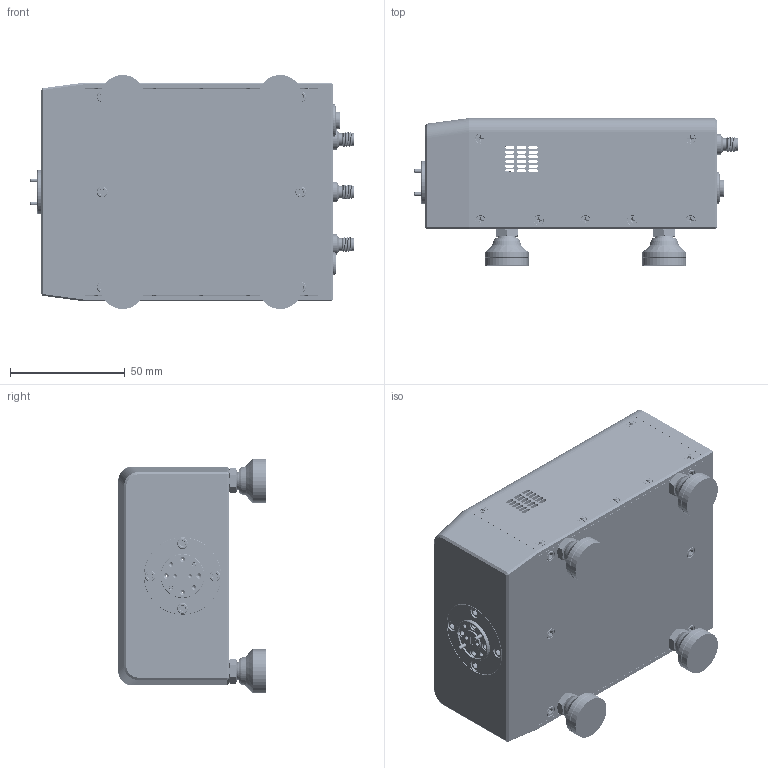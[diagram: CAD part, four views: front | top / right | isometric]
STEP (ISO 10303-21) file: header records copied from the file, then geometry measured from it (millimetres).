
FILE_DESCRIPTION (( 'STEP AP214' ), '1' );
FILE_NAME ('TO-TV-A.STEP', '2024-11-21T17:41:39', ( '' ), ( '' ), 'SwSTEP 2.0', 'SolidWorks 2021', '' );
FILE_SCHEMA (( 'AUTOMOTIVE_DESIGN' ));
Length unit declared in the file: inch
Products named in the file (1): TO-TV-A
Bounding box: 140.66 x 64.14 x 101.85 mm (x, y, z)
Volume: 190921.2 mm3; surface area: 127103 mm2
Topology: 74 solids, 74 shells, 4220 faces, 11161 edges, 7098 vertices
Faces by surface type: cylinder 2011, plane 993, cone 783, bspline 363, sphere 62, torus 8
Entity records: 254680 total; most frequent: CARTESIAN_POINT 160453, ORIENTED_EDGE 21980, DIRECTION 16799, EDGE_CURVE 10990, VERTEX_POINT 7087, AXIS2_PLACEMENT_3D 6412, EDGE_LOOP 4613, ADVANCED_FACE 4220
